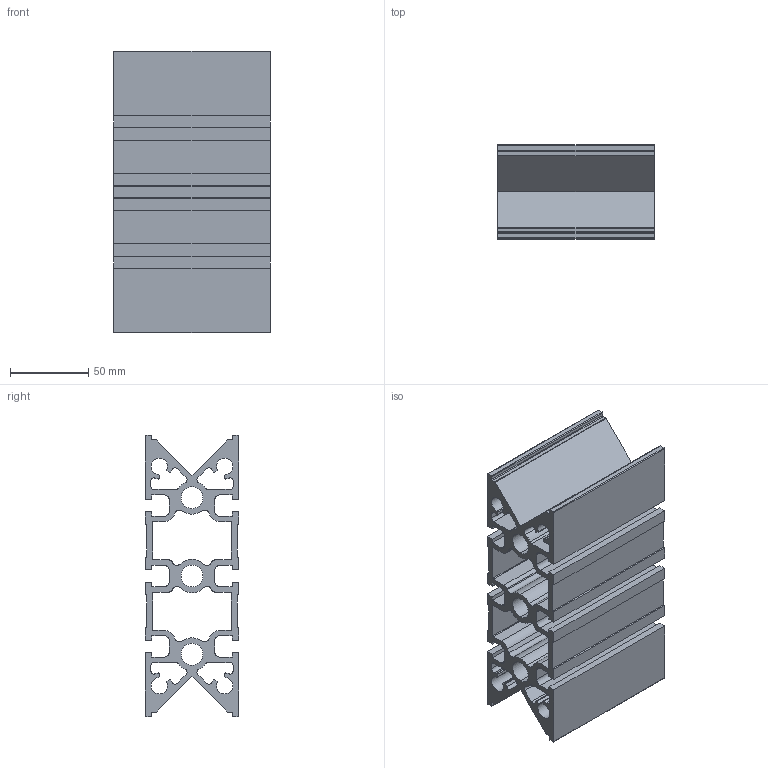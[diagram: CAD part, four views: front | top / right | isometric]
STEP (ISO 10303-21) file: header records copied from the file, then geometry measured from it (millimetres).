
FILE_DESCRIPTION (( 'STEP AP214' ), '1' );
FILE_NAME ('084.530.003.STEP', '2020-07-23T08:39:53', ( '' ), ( '' ), 'SwSTEP 2.0', 'SolidWorks 2018', '' );
FILE_SCHEMA (( 'AUTOMOTIVE_DESIGN' ));
Length unit declared in the file: millimetre
Products named in the file (1): 084.530.003
Bounding box: 100 x 60 x 180 mm (x, y, z)
Volume: 376466.8 mm3; surface area: 163997.8 mm2
Topology: 1 solids, 1 shells, 254 faces, 756 edges, 504 vertices
Faces by surface type: plane 132, cylinder 122
Entity records: 8654 total; most frequent: CARTESIAN_POINT 1515, ORIENTED_EDGE 1512, DIRECTION 1510, EDGE_CURVE 756, VECTOR 512, LINE 512, VERTEX_POINT 504, AXIS2_PLACEMENT_3D 499
